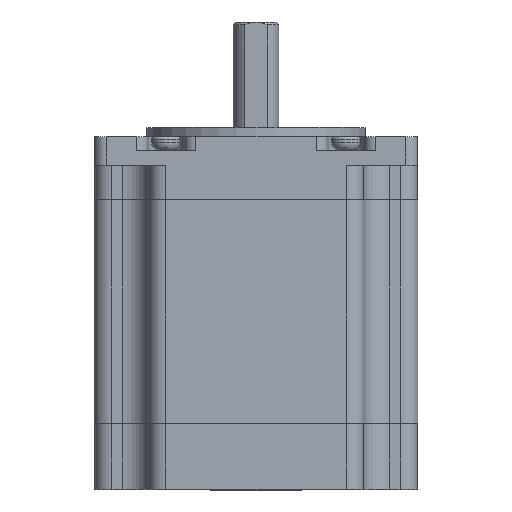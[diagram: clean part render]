
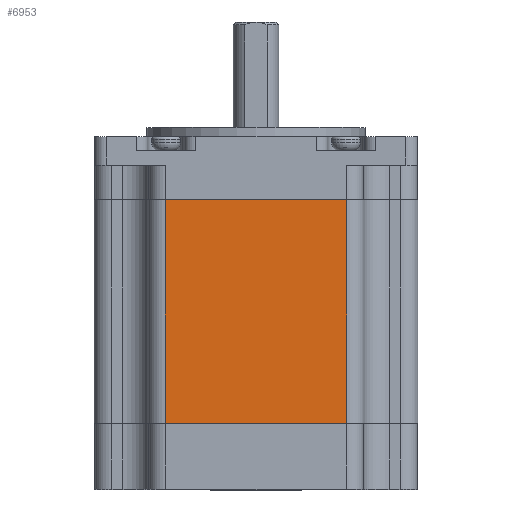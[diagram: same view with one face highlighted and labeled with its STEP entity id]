
A CAD part, top view. The second image highlights one B-rep face of the part: STEP entity #6953.
In plain terms, the highlighted planar face has unit normal (0, 0, 1).
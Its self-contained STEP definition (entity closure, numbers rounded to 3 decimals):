
#699 = CARTESIAN_POINT ( 'NONE',  ( -15.8, 39., 28.2 ) ) ;
#1172 = LINE ( 'NONE', #699, #4887 ) ;
#1255 = CARTESIAN_POINT ( 'NONE',  ( 18.8, 39., 28.2 ) ) ;
#1460 = DIRECTION ( 'NONE',  ( 0., -1., 0. ) ) ;
#2331 = VECTOR ( 'NONE', #7276, 1000. ) ;
#2929 = CARTESIAN_POINT ( 'NONE',  ( 18.8, 39., 28.2 ) ) ;
#3547 = DIRECTION ( 'NONE',  ( -1., 0., 0. ) ) ;
#3893 = CARTESIAN_POINT ( 'NONE',  ( 15.8, 0., 28.2 ) ) ;
#3961 = CARTESIAN_POINT ( 'NONE',  ( -15.8, 0., 28.2 ) ) ;
#3984 = LINE ( 'NONE', #4618, #5684 ) ;
#4088 = VECTOR ( 'NONE', #4343, 1000. ) ;
#4305 = CARTESIAN_POINT ( 'NONE',  ( 15.8, 39., 28.2 ) ) ;
#4306 = LINE ( 'NONE', #4305, #4088 ) ;
#4343 = DIRECTION ( 'NONE',  ( 0., 1., 0. ) ) ;
#4587 = DIRECTION ( 'NONE',  ( 1., 0., 0. ) ) ;
#4618 = CARTESIAN_POINT ( 'NONE',  ( 18.8, 0., 28.2 ) ) ;
#4779 = AXIS2_PLACEMENT_3D ( 'NONE', #1255, #7843, #3547 ) ;
#4887 = VECTOR ( 'NONE', #1460, 1000. ) ;
#5670 = ORIENTED_EDGE ( 'NONE', *, *, #6084, .T. ) ;
#5684 = VECTOR ( 'NONE', #4587, 1000. ) ;
#5872 = EDGE_LOOP ( 'NONE', ( #8849, #5670, #8080, #8465 ) ) ;
#6047 = EDGE_CURVE ( 'NONE', #7309, #8183, #3984, .T. ) ;
#6084 = EDGE_CURVE ( 'NONE', #8183, #8458, #4306, .T. ) ;
#6133 = EDGE_CURVE ( 'NONE', #6609, #8458, #7017, .T. ) ;
#6161 = EDGE_CURVE ( 'NONE', #6609, #7309, #1172, .T. ) ;
#6386 = CARTESIAN_POINT ( 'NONE',  ( -15.8, 39., 28.2 ) ) ;
#6609 = VERTEX_POINT ( 'NONE', #6386 ) ;
#6953 = ADVANCED_FACE ( 'NONE', ( #7049 ), #9291, .F. ) ;
#7017 = LINE ( 'NONE', #2929, #2331 ) ;
#7049 = FACE_OUTER_BOUND ( 'NONE', #5872, .T. ) ;
#7117 = CARTESIAN_POINT ( 'NONE',  ( 15.8, 39., 28.2 ) ) ;
#7276 = DIRECTION ( 'NONE',  ( 1., 0., 0. ) ) ;
#7309 = VERTEX_POINT ( 'NONE', #3961 ) ;
#7843 = DIRECTION ( 'NONE',  ( 0., 0., -1. ) ) ;
#8080 = ORIENTED_EDGE ( 'NONE', *, *, #6133, .F. ) ;
#8183 = VERTEX_POINT ( 'NONE', #3893 ) ;
#8458 = VERTEX_POINT ( 'NONE', #7117 ) ;
#8465 = ORIENTED_EDGE ( 'NONE', *, *, #6161, .T. ) ;
#8849 = ORIENTED_EDGE ( 'NONE', *, *, #6047, .T. ) ;
#9291 = PLANE ( 'NONE',  #4779 ) ;
